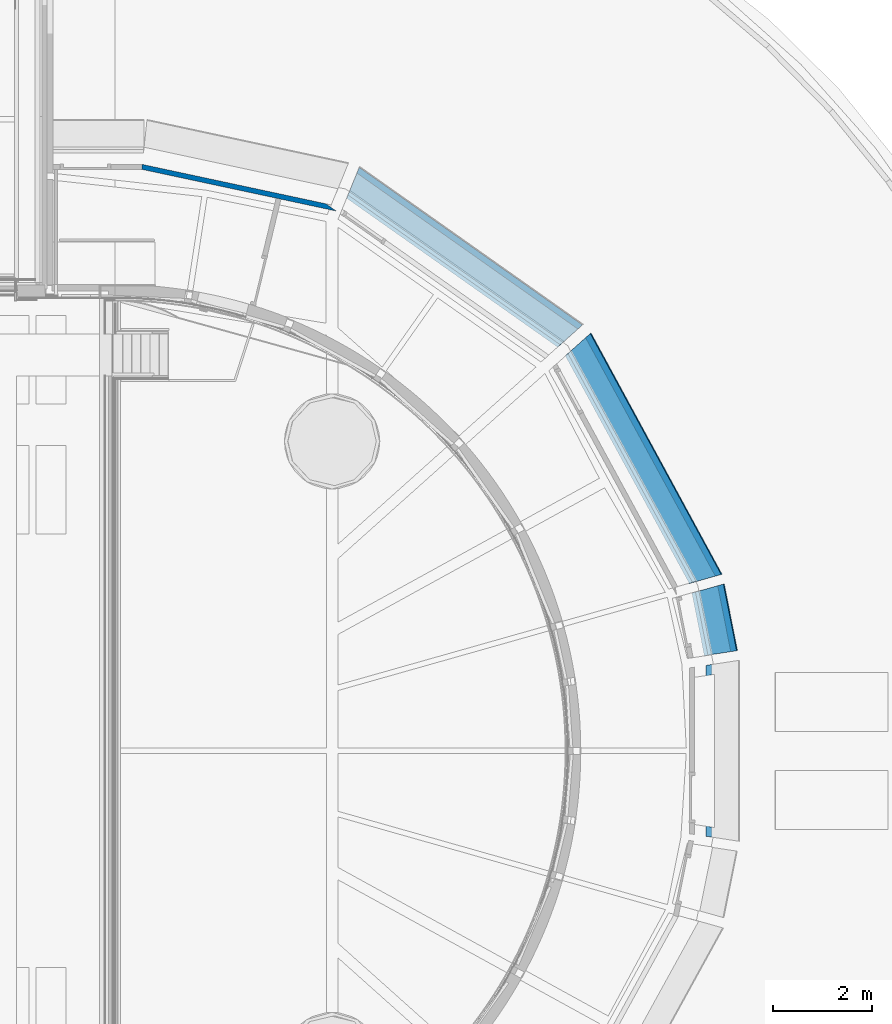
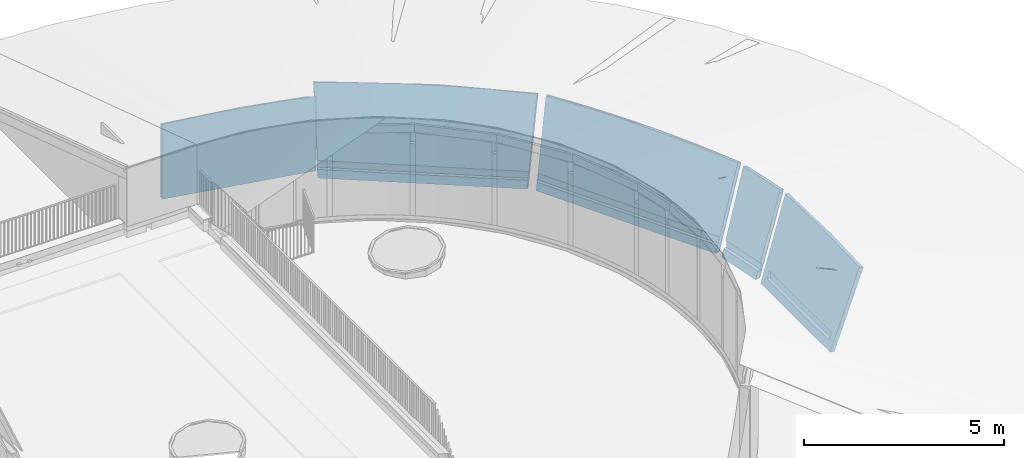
# One storey, part 51 of 66: 7 walls.
"""IFC2X3 building model written with IfcOpenShell, lengths in millimetres."""

from ifc_helpers import new_model, entity, si_unit, converted_unit, derived_unit, direction, frame, origin, place, context, subcontext, project, spatial, faceted_brep, material, layer, layer_set, type_object, element, save


model = new_model("IFC2X3")

# Units and contexts
model_context = context("Model", 3, precision=0.01, world=origin(), true_north=direction((6.12303176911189e-17, 1.0)))
body_context = subcontext(model_context, "Body", "Model", "MODEL_VIEW")
ifc_project = project(units=[si_unit("LENGTHUNIT", "METRE", prefix="MILLI"), si_unit("AREAUNIT", "SQUARE_METRE"), si_unit("VOLUMEUNIT", "CUBIC_METRE"), converted_unit("PLANEANGLEUNIT", "DEGREE", entity("IfcRatioMeasure", 0.0174532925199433), si_unit("PLANEANGLEUNIT", "RADIAN"), dimensions=[0, 0, 0, 0, 0, 0, 0]), si_unit("MASSUNIT", "GRAM", prefix="KILO"), derived_unit("MASSDENSITYUNIT", [(si_unit("MASSUNIT", "GRAM", prefix="KILO"), 1), (si_unit("LENGTHUNIT", "METRE"), -3)]), derived_unit("MOMENTOFINERTIAUNIT", [(si_unit("LENGTHUNIT", "METRE"), 4)]), si_unit("TIMEUNIT", "SECOND"), si_unit("FREQUENCYUNIT", "HERTZ"), si_unit("THERMODYNAMICTEMPERATUREUNIT", "DEGREE_CELSIUS"), derived_unit("THERMALTRANSMITTANCEUNIT", [(si_unit("MASSUNIT", "GRAM", prefix="KILO"), 1), (si_unit("THERMODYNAMICTEMPERATUREUNIT", "KELVIN"), -1), (si_unit("TIMEUNIT", "SECOND"), -3)]), derived_unit("VOLUMETRICFLOWRATEUNIT", [(si_unit("LENGTHUNIT", "METRE"), 3), (si_unit("TIMEUNIT", "SECOND"), -1)]), si_unit("ELECTRICCURRENTUNIT", "AMPERE"), si_unit("ELECTRICVOLTAGEUNIT", "VOLT"), si_unit("POWERUNIT", "WATT"), si_unit("FORCEUNIT", "NEWTON", prefix="KILO"), si_unit("ILLUMINANCEUNIT", "LUX"), si_unit("LUMINOUSFLUXUNIT", "LUMEN"), si_unit("LUMINOUSINTENSITYUNIT", "CANDELA"), derived_unit("USERDEFINED", [(si_unit("MASSUNIT", "GRAM", prefix="KILO"), -1), (si_unit("LENGTHUNIT", "METRE"), -2), (si_unit("TIMEUNIT", "SECOND"), 3), (si_unit("LUMINOUSFLUXUNIT", "LUMEN"), 1)]), derived_unit("LINEARVELOCITYUNIT", [(si_unit("LENGTHUNIT", "METRE"), 1), (si_unit("TIMEUNIT", "SECOND"), -1)]), si_unit("PRESSUREUNIT", "PASCAL"), derived_unit("USERDEFINED", [(si_unit("LENGTHUNIT", "METRE"), -2), (si_unit("MASSUNIT", "GRAM", prefix="KILO"), 1), (si_unit("TIMEUNIT", "SECOND"), -2)]), derived_unit("LINEARFORCEUNIT", [(si_unit("MASSUNIT", "GRAM", prefix="KILO"), 1), (si_unit("LENGTHUNIT", "METRE"), 1), (si_unit("TIMEUNIT", "SECOND"), -2), (si_unit("LENGTHUNIT", "METRE"), -1)]), derived_unit("PLANARFORCEUNIT", [(si_unit("MASSUNIT", "GRAM", prefix="KILO"), 1), (si_unit("LENGTHUNIT", "METRE"), 1), (si_unit("TIMEUNIT", "SECOND"), -2), (si_unit("LENGTHUNIT", "METRE"), -2)])], contexts=[model_context])

# Site, building, storey
site_placement = place(None, origin())
site = spatial("IfcSite", under=ifc_project, at=site_placement, Name="Default", CompositionType="ELEMENT")
building_placement = place(site_placement, origin())
building = spatial("IfcBuilding", under=site, at=building_placement, Name="-", CompositionType="ELEMENT")
storey_placement = place(building_placement, frame((0.0, 0.0, 3070.0)))
storey = spatial("IfcBuildingStorey", under=building, at=storey_placement, Name="01 eerste verdieping", CompositionType="ELEMENT", Elevation=3070.00000000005)

# Walls
ifc_material_1 = material(Name="NLRS_f7_gipsplaat_gen")
ifc_layer_1 = layer(ifc_material_1, 12.5)
ifc_material_2 = material(Name="NLRS_m1_isolatie")
ifc_layer_2 = layer(ifc_material_2, 75.0)
ifc_layer_3 = layer(ifc_material_1, 12.5)
ifc_layer_set_1 = layer_set([ifc_layer_1, ifc_layer_2, ifc_layer_3], Name="Basic Wall:NLRS_21_WA_Metalstud 100mm")
wall_type_1 = type_object("IfcWallType", Name="Basic Wall:NLRS_21_WA_Metalstud 100mm", PredefinedType="STANDARD", material=ifc_layer_set_1)
wall_1_placement = place(storey_placement, frame((51189.4343126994, 31474.7863707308, 100.0), z_axis=(0.0, 0.0, 1.0), x_axis=(0.977793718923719, -0.209569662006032, 0.0)))
element("IfcWall", 1, at=wall_1_placement, inside=storey, type_object=wall_type_1, Name="Basic Wall:NLRS_21_WA_Metalstud 100mm", ObjectType="Basic Wall:NLRS_21_WA_Metalstud 100mm", context=body_context, shape_type="Brep", body=[
    faceted_brep([(10.5961334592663, -50.0, 0.0), (2801.93908799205, -50.0, 0.0), (2901.97079579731, -50.0, 0.0), (4048.40724407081, -50.0, 0.0), (4048.40724407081, -50.0, 2274.16548387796), (3393.47804476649, -50.0, 2306.03180569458), (2901.97079579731, -50.0, 2322.28861399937), (2851.95566966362, -50.0, 2323.57048406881), (2801.93908799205, -50.0, 2324.78329121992), (2533.26423384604, -50.0, 2330.11296708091), (2398.91116444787, -50.0, 2332.0268947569), (1509.91452337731, -50.0, 2332.0268947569), (676.704294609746, -50.0, 2312.09890806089), (10.5961334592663, -50.0, 2282.49090924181), (3814.09285141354, 50.0, 0.0), (0.0, 50.0, 0.0), (0.0, 50.0, 2249.87463159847), (452.943667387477, 50.0, 2260.9981391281), (1059.48617005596, 50.0, 2275.89376651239), (2118.97234011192, 50.0, 2301.91290142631), (2966.53259576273, 50.0, 2278.3574841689), (3814.09285141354, 50.0, 2254.80206691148), (1806.21485837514, -42.4711787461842, 2332.0268947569), (5.29807086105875, -3.89899694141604e-05, 2266.18290499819), (3931.24081642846, 0.00393971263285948, 2264.69284493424)], [[[0, 1, 2, 3, 4, 5, 6, 7, 8, 9, 10, 11, 12, 13]], [[14, 15, 16, 17, 18, 19, 20, 21]], [[3, 2, 1, 0, 15, 14]], [[10, 22, 11]], [[18, 11, 19]], [[19, 11, 22]], [[19, 22, 10]], [[5, 21, 20]], [[12, 17, 13]], [[11, 18, 12]], [[12, 18, 17]], [[16, 23, 17]], [[10, 9, 19]], [[7, 20, 8]], [[6, 20, 7]], [[5, 20, 6]], [[20, 19, 8]], [[21, 5, 24]], [[17, 23, 13]], [[4, 24, 5]], [[8, 19, 9]], [[3, 14, 21, 24, 4]], [[16, 15, 0, 13, 23]]]),
])
ifc_layer_4 = layer(ifc_material_1, 12.5)
ifc_layer_5 = layer(ifc_material_2, 89.0)
ifc_layer_6 = layer(ifc_material_1, 12.5)
ifc_layer_set_2 = layer_set([ifc_layer_4, ifc_layer_5, ifc_layer_6], Name="Basic Wall:NLRS_21_WA_HSB-wand_114mm")
wall_type_2 = type_object("IfcWallType", Name="Basic Wall:NLRS_21_WA_HSB-wand_114mm", PredefinedType="STANDARD", material=ifc_layer_set_2)
wall_2_placement = place(storey_placement, frame((62821.8042367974, 17749.5545274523, -370.0), z_axis=(0.0, 0.0, 1.0), x_axis=(0.0, 1.0, 0.0)))
element("IfcWall", 2, at=wall_2_placement, inside=storey, type_object=wall_type_2, Name="Basic Wall:NLRS_21_WA_HSB-wand_114mm", ObjectType="Basic Wall:NLRS_21_WA_HSB-wand_114mm", context=body_context, shape_type="Brep", body=[
    faceted_brep([(116.975363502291, 60.2869408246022, 0.0), (3620.67106727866, 60.2869408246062, 0.0), (3737.62502525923, -707.584336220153, 2363.26478803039), (3259.00112998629, -710.52350346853, 2372.31061468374), (2780.37723471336, -713.462670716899, 2381.35644133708), (1661.10144972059, -720.335998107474, 2402.51036789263), (938.763859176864, -714.818415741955, 2385.52899548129), (469.381929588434, -711.233037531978, 2374.49433598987), (0.0, -707.647659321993, 2363.45967649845), (16.496976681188, -599.346228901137, 2399.05389647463), (315.590337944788, 33.2899316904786, 452.0), (135.23401475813, 180.153634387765, 0.0), (531.046644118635, -602.487153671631, 2408.72066893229), (1045.59631155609, -605.628078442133, 2418.38744138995), (1560.14597899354, -608.769003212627, 2428.05421384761), (2074.69564643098, -611.90992798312, 2437.72098630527), (3417.41878763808, 33.2899316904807, 452.0), (2897.91267708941, -605.596418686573, 2418.29000268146), (3721.12970774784, -599.282909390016, 2398.85901905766), (3602.41425176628, 180.153634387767, 0.0), (3406.48187322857, 105.097184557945, 231.0), (326.528352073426, 105.097184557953, 231.0), (3421.71280600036, 5.09718455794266, 231.0), (3421.71280600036, 5.09718455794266, 452.0), (311.295887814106, 5.0971845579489, 452.0), (311.295887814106, 5.0971845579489, 231.0), (3729.37736646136, -653.433622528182, 2381.06190544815), (8.24848838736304, -653.496943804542, 2381.25678859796)], [[[0, 1, 2, 3, 4, 5, 6, 7, 8]], [[9, 10, 11]], [[10, 9, 12]], [[10, 12, 13]], [[10, 13, 14]], [[10, 14, 15]], [[16, 10, 15]], [[16, 15, 17]], [[16, 17, 18]], [[19, 16, 18]], [[20, 16, 19]], [[20, 19, 11]], [[11, 21, 20]], [[21, 11, 10]], [[0, 11, 19, 1]], [[16, 20, 22, 23]], [[24, 23, 22, 25]], [[10, 24, 25, 21]], [[10, 16, 23, 24]], [[22, 20, 21, 25]], [[15, 4, 17]], [[5, 15, 14, 13]], [[3, 2, 26]], [[3, 17, 4]], [[15, 5, 4]], [[6, 12, 7]], [[27, 7, 9]], [[12, 9, 7]], [[5, 13, 6]], [[27, 8, 7]], [[13, 12, 6]], [[18, 3, 26]], [[18, 17, 3]], [[0, 8, 27, 9, 11]], [[18, 26, 2, 1, 19]]]),
])
wall_3_placement = place(storey_placement, frame((62796.3590377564, 21545.9942070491, -370.0), z_axis=(0.0, 0.0, 1.0), x_axis=(-0.194356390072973, 0.980930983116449, 0.0)))
element("IfcWall", 3, at=wall_3_placement, inside=storey, type_object=wall_type_2, Name="Basic Wall:NLRS_21_WA_HSB-wand_114mm", ObjectType="Basic Wall:NLRS_21_WA_HSB-wand_114mm", context=body_context, shape_type="Brep", body=[
    faceted_brep([(32.9935239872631, 33.2899316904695, 452.0), (4.82241704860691, -600.01199706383, 2401.10292018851), (779.24467243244, -600.449000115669, 2402.44787728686), (1398.71880270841, -597.604602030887, 2393.69372012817), (1347.89838837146, 33.2899316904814, 452.0), (39.5264475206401, 180.153634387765, 0.0), (36.1877189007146, 105.097184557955, 231.0), (1342.11410249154, 105.097184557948, 231.0), (1336.06808421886, 180.153634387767, 0.0), (0.0, -708.422576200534, 2365.84462541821), (34.1944292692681, 60.2869408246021, 0.0), (1345.72369970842, 60.2869408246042, 0.0), (1407.449717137, -705.991876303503, 2358.36370036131), (625.561845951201, -709.136661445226, 2368.04235381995), (2.41120854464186, -654.217286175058, 2383.4737756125), (31.7394288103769, 5.09718455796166, 452.0), (31.7394288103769, 5.09718455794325, 231.0), (1350.16939725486, 5.09718455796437, 452.0), (1350.16939725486, 5.09718455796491, 231.0), (1403.08425988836, -651.798238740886, 2376.02871292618)], [[[0, 1, 2, 3, 4]], [[5, 6, 7, 8]], [[9, 10, 11, 12, 13]], [[10, 5, 8, 11]], [[14, 1, 0, 15, 16, 6, 5, 10, 9]], [[15, 17, 18, 16]], [[4, 17, 15, 0]], [[6, 16, 18, 7]], [[3, 2, 19]], [[13, 12, 19]], [[19, 2, 13]], [[14, 13, 2]], [[9, 13, 14]], [[14, 2, 1]], [[7, 18, 17, 4, 3, 19, 12, 11, 8]]]),
])
wall_4_placement = place(storey_placement, frame((62555.1733948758, 22923.0351062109, -352.0), z_axis=(0.0, 0.0, 1.0), x_axis=(-0.478208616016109, 0.878246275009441, 0.0)))
element("IfcWall", 4, at=wall_4_placement, inside=storey, type_object=wall_type_2, Name="Basic Wall:NLRS_21_WA_HSB-wand_114mm", ObjectType="Basic Wall:NLRS_21_WA_HSB-wand_114mm", context=body_context, shape_type="Brep", body=[
    faceted_brep([(171.827773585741, 54.4383862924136, 0.0), (5490.69195735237, 54.4383862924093, 0.0), (5668.90031107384, -702.737338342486, 2330.34726245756), (5189.40446183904, -707.363023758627, 2344.58365831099), (4881.51823371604, -710.333195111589, 2353.72490578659), (4094.13615635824, -717.9290518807, 2377.10254911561), (3306.75407900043, -725.524908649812, 2400.48019244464), (2913.06304032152, -729.322837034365, 2412.16901410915), (2519.37200164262, -733.120765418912, 2423.85783577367), (1889.52900123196, -725.981944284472, 2401.88680349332), (1259.68600082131, -718.843123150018, 2379.91577121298), (473.839317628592, -709.936111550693, 2352.50280824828), (0.0, -704.565480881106, 2335.97370665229), (173.191892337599, 33.289931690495, 434.0), (24.4857522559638, -596.406128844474, 2372.00519893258), (562.817749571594, -605.330599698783, 2399.47189595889), (198.963902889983, 174.305079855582, 0.0), (189.448041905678, 105.097184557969, 213.0), (1101.14974688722, -614.255070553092, 2426.9385929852), (1963.32126102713, -622.398015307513, 2452.0), (3617.60164021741, -622.39801530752, 2452.0), (5492.07380998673, 33.289931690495, 434.0), (5462.48021543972, 174.305079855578, 0.0), (5475.17330472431, 105.097184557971, 213.0), (4180.60711390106, -616.530113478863, 2433.94045514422), (5643.44885641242, -594.598616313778, 2366.44224737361), (4743.61258758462, -610.66221165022, 2415.88091028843), (5193.53072199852, -602.630413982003, 2391.16157883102), (2459.6617121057, -635.351326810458, 2452.0), (2956.00216318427, -648.304638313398, 2452.0), (5656.17458365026, -648.667976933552, 2348.39475819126), (5498.70923541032, 5.09718455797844, 213.0), (5498.70923541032, 5.09718455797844, 434.0), (166.809451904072, 5.09718455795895, 213.0), (166.809451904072, 5.09718455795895, 434.0), (12.2428761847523, -650.485804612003, 2353.98945482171)], [[[0, 1, 2, 3, 4, 5, 6, 7, 8, 9, 10, 11, 12]], [[13, 14, 15]], [[13, 16, 14]], [[13, 17, 16]], [[13, 15, 18]], [[13, 18, 19]], [[19, 20, 13]], [[21, 13, 20]], [[16, 17, 22]], [[22, 17, 23]], [[22, 23, 21]], [[21, 20, 24]], [[22, 21, 25]], [[21, 24, 26]], [[21, 26, 27]], [[21, 27, 25]], [[0, 16, 22, 1]], [[20, 19, 28, 29]], [[25, 30, 2, 1, 22]], [[21, 23, 31, 32]], [[32, 31, 33, 34]], [[13, 34, 33, 17]], [[34, 13, 21, 32]], [[31, 23, 17, 33]], [[2, 30, 3]], [[25, 3, 30]], [[20, 5, 26, 24]], [[20, 29, 6]], [[4, 3, 27]], [[3, 25, 27]], [[26, 4, 27]], [[6, 5, 20]], [[10, 15, 11]], [[18, 10, 9]], [[19, 8, 29, 28]], [[26, 5, 4]], [[19, 9, 8]], [[15, 10, 18]], [[35, 12, 11]], [[18, 9, 19]], [[14, 35, 11]], [[29, 8, 7, 6]], [[15, 14, 11]], [[0, 12, 35, 14, 16]]]),
])
wall_5_placement = place(storey_placement, frame((59901.0654211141, 27840.1347978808, -355.0), z_axis=(0.0, 0.0, 1.0), x_axis=(-0.817056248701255, 0.576557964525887, 0.0)))
element("IfcWall", 5, at=wall_5_placement, inside=storey, type_object=wall_type_2, Name="Basic Wall:NLRS_21_WA_HSB-wand_114mm", ObjectType="Basic Wall:NLRS_21_WA_HSB-wand_114mm", context=body_context, shape_type="Brep", body=[
    faceted_brep([(174.690939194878, 55.4131453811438, 0.0), (5474.2908816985, 55.4131453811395, 0.0), (5649.52891361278, -702.338513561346, 2332.11980599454), (5168.38023762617, -706.822404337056, 2345.91980281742), (4864.81624264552, -709.651359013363, 2354.6264300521), (4080.10357167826, -716.964204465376, 2377.13305410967), (3295.39090071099, -724.277049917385, 2399.63967816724), (2510.67822974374, -731.589895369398, 2422.1463022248), (1883.0086723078, -724.328476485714, 2399.79795286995), (1255.33911487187, -717.06705760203, 2377.4496035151), (473.991306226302, -708.027757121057, 2349.62949723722), (0.0, -702.544219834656, 2332.75290480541), (172.157610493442, 33.2899316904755, 437.0), (188.70745487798, 105.097184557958, 216.0), (5462.80092566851, 105.097184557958, 216.0), (5446.57044951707, 175.27983894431, 0.0), (202.317328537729, 175.279838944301, 0.0), (24.9260037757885, -594.394087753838, 2368.8127731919), (648.919409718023, -604.46815661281, 2399.81756907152), (1272.91281566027, -614.542225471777, 2430.82236495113), (1772.62978963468, -618.470120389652, 2442.91118247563), (2272.34676360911, -622.398015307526, 2455.0), (3367.23988860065, -622.398015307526, 2455.0), (3994.56908681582, -616.872029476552, 2437.99276438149), (4621.89828503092, -611.346043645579, 2420.98552876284), (5123.20838243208, -602.768121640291, 2394.58539942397), (5624.51847983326, -594.190199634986, 2368.1852700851), (5479.40710728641, 33.2899316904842, 437.0), (2637.33631772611, -627.648762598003, 2455.0), (3002.32587184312, -632.899509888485, 2455.0), (5485.79671071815, 5.66046936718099, 216.0), (5485.79671071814, 5.66046936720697, 437.0), (5637.02369663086, -648.264356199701, 2350.1525413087), (12.4630019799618, -648.469153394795, 2350.78284226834), (165.659860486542, 5.09718455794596, 437.0), (165.659860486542, 5.09718455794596, 216.0)], [[[0, 1, 2, 3, 4, 5, 6, 7, 8, 9, 10, 11]], [[12, 13, 14, 15, 16, 17, 18, 19, 20, 21, 22, 23, 24, 25, 26, 27]], [[0, 16, 15, 1]], [[22, 21, 28, 29]], [[14, 30, 31, 27, 26, 32, 2, 1, 15]], [[0, 11, 33, 17, 16]], [[34, 31, 30, 35]], [[12, 34, 35, 13]], [[27, 31, 34, 12]], [[13, 35, 30, 14]], [[2, 32, 3]], [[5, 24, 23]], [[6, 23, 22]], [[5, 23, 6]], [[4, 3, 25]], [[3, 26, 25]], [[8, 21, 20, 19]], [[24, 4, 25]], [[29, 7, 6]], [[9, 18, 10]], [[19, 9, 8]], [[21, 7, 29, 28]], [[24, 5, 4]], [[21, 8, 7]], [[18, 9, 19]], [[33, 11, 10]], [[17, 33, 10]], [[29, 6, 22]], [[18, 17, 10]], [[26, 3, 32]]]),
])
ifc_material_3 = material(Name="NLRS_Akoestisch paneel RAL 9010")
ifc_layer_7 = layer(ifc_material_3, 18.0)
ifc_layer_set_3 = layer_set([ifc_layer_7], Name="Basic Wall:NLRS_42_WA_Akoestische panelen")
wall_type_3 = type_object("IfcWallType", Name="Basic Wall:NLRS_42_WA_Akoestische panelen", PredefinedType="STANDARD", material=ifc_layer_set_3)
wall_6_placement = place(storey_placement, frame((62864.5802110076, 21558.7349471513, -370.0), z_axis=(0.0, 0.0, 1.0), x_axis=(-0.194356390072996, 0.980930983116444, 0.0)))
element("IfcWall", 6, at=wall_6_placement, inside=storey, type_object=wall_type_3, Name="Basic Wall:NLRS_42_WA_Akoestische panelen", ObjectType="Basic Wall:NLRS_42_WA_Akoestische panelen", context=body_context, shape_type="Brep", body=[
    faceted_brep([(0.0, -656.143528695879, 2360.27752449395), (34.1139658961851, 110.757127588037, 0.0), (1348.00970482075, 110.757127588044, 0.0), (1409.58971677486, -653.709149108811, 2352.78527451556), (1225.782562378, -654.44851269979, 2355.0608016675), (1041.97540798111, -655.187876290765, 2357.33632881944), (626.512957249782, -656.859072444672, 2362.47974170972), (34.9558635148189, 129.683447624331, 0.0), (0.761434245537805, -639.026069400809, 2365.84462541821), (391.737443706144, -639.247890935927, 2366.52732190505), (782.713453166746, -639.469712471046, 2367.21001839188), (1095.46230227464, -638.032540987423, 2362.7868593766), (1408.21115138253, -636.595369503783, 2358.36370036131), (1346.48513395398, 129.68344762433, 0.0), (1408.90043408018, -645.152259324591, 2355.57448749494), (0.380717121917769, -647.58479906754, 2363.06107501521)], [[[0, 1, 2, 3, 4, 5, 6]], [[7, 8, 9, 10, 11, 12, 13]], [[1, 7, 13, 2]], [[6, 11, 10]], [[4, 3, 14]], [[11, 6, 5]], [[15, 6, 9]], [[5, 12, 11]], [[5, 4, 12]], [[0, 6, 15]], [[12, 4, 14]], [[15, 9, 8]], [[6, 10, 9]], [[1, 0, 15, 8, 7]], [[12, 14, 3, 2, 13]]]),
])
wall_7_placement = place(storey_placement, frame((62616.0121420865, 22953.0918788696, -355.0), z_axis=(0.0, 0.0, 1.0), x_axis=(-0.477071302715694, 0.878864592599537, 0.0)))
element("IfcWall", 7, at=wall_7_placement, inside=storey, type_object=wall_type_3, Name="Basic Wall:NLRS_42_WA_Akoestische panelen", ObjectType="Basic Wall:NLRS_42_WA_Akoestische panelen", context=body_context, shape_type="Brep", body=[
    faceted_brep([(170.633543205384, 105.883332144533, 0.0), (5498.78168972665, 105.88333214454, 0.0), (5677.68386717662, -649.852025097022, 2325.91426744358), (5651.33686506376, -650.352135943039, 2327.45345036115), (5624.9898629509, -650.852246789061, 2328.99263327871), (5572.29585872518, -651.852468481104, 2332.07099911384), (5466.90785027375, -653.852911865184, 2338.22773078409), (5414.21384604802, -654.853133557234, 2341.30609661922), (5361.51984182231, -655.853355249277, 2344.38446245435), (5308.82583759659, -656.853576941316, 2347.46282828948), (5256.13183337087, -657.853798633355, 2350.5411941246), (5151.83416933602, -659.833545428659, 2356.63422824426), (5099.6853373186, -660.823418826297, 2359.68074530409), (5047.53650530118, -661.813292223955, 2362.72726236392), (4968.70670045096, -662.952552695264, 2366.23354556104), (4889.87689560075, -664.09181316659, 2369.73982875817), (4811.04709075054, -665.23107363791, 2373.2461119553), (4732.21728590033, -666.370334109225, 2376.75239515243), (4653.38748105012, -667.509594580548, 2380.25867834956), (4574.55767619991, -668.64885505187, 2383.76496154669), (4495.7278713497, -669.788115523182, 2387.27124474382), (4416.89806649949, -670.927375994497, 2390.77752794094), (4259.14482012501, -672.479295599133, 2395.55384535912), (4101.39157375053, -674.031215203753, 2400.3301627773), (3943.63832737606, -675.583134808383, 2405.10648019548), (3785.88508100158, -677.135054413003, 2409.88279761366), (3470.26408524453, -678.764923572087, 2414.89901909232), (3154.64308948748, -680.394792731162, 2419.91524057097), (2523.31384605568, -680.684533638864, 2420.80697139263), (2207.67854187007, -679.343417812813, 2416.67944129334), (1892.04323768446, -678.002301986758, 2412.55191119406), (1734.27685739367, -676.593306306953, 2408.21546838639), (1576.51047710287, -675.184310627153, 2403.87902557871), (1418.74409681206, -673.775314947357, 2399.54258277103), (1260.97771652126, -672.366319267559, 2395.20613996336), (1182.13722105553, -671.2973191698, 2391.91609596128), (1103.29672558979, -670.22831907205, 2388.6260519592), (1024.45623012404, -669.159318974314, 2385.33600795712), (945.615734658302, -668.090318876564, 2382.04596395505), (866.775239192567, -667.021318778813, 2378.75591995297), (787.934743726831, -665.952318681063, 2375.46587595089), (709.094248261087, -664.883318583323, 2372.17583194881), (630.253752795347, -663.814318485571, 2368.88578794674), (579.35343926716, -662.892663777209, 2366.04922642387), (528.453125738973, -661.971009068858, 2363.21266490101), (426.652498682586, -660.127699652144, 2357.53954185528), (319.989374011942, -658.196344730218, 2351.59544260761), (266.657811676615, -657.230667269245, 2348.62339298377), (213.326249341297, -656.264989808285, 2345.65134335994), (106.663124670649, -654.333634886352, 2339.70724411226), (53.3315623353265, -653.367957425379, 2336.73519448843), (26.6657811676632, -652.885118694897, 2335.24916967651), (0.0, -652.402279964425, 2333.76314486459), (174.892446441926, 124.809652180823, 0.0), (3.84304708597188, -635.324000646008, 2339.45082935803), (82.5153541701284, -636.748462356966, 2343.83487171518), (161.187661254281, -638.172924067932, 2348.21891407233), (239.859968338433, -639.597385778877, 2352.60295642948), (318.532275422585, -641.021847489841, 2356.98699878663), (397.204582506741, -642.446309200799, 2361.37104114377), (475.876889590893, -643.870770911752, 2365.75508350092), (554.549196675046, -645.29523262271, 2370.13912585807), (633.221503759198, -646.719694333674, 2374.52316821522), (711.952523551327, -647.787165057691, 2377.80850528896), (790.683543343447, -648.854635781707, 2381.09384236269), (869.414563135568, -649.922106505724, 2384.37917943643), (948.145582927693, -650.98957722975, 2387.66451651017), (1026.87660271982, -652.057047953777, 2390.94985358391), (1105.60762251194, -653.124518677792, 2394.23519065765), (1184.33864230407, -654.19198940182, 2397.52052773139), (1263.06966209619, -655.259460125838, 2400.80586480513), (1420.61697047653, -656.666444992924, 2405.13611896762), (1578.16427885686, -658.073429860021, 2409.46637313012), (1735.71158723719, -659.480414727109, 2413.79662729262), (1893.25889561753, -660.887399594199, 2418.12688145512), (2208.45571966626, -662.226617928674, 2422.24857167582), (2523.65254371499, -663.565836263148, 2426.37026189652), (3154.10506268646, -663.276579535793, 2425.4800212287), (3469.28760334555, -661.649090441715, 2420.47112483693), (3784.47014400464, -660.021601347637, 2415.46222844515), (3942.00413387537, -658.471933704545, 2410.69284185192), (4099.53812374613, -656.922266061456, 2405.92345525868), (4257.07211361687, -655.372598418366, 2401.15406866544), (4414.60610348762, -653.822930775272, 2396.38468207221), (4493.32665273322, -652.68531396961, 2392.88345755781), (4572.04720197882, -651.547697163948, 2389.38223304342), (4650.76775122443, -650.410080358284, 2385.88100852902), (4729.48830047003, -649.272463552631, 2382.37978401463), (4808.20884971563, -648.134846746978, 2378.87855950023), (4886.92939896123, -646.997229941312, 2375.37733498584), (4965.64994820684, -645.859613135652, 2371.87611047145), (5044.37049745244, -644.721996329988, 2368.37488595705), (5123.02943558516, -643.228996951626, 2363.77990634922), (5201.68837371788, -641.735997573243, 2359.18492674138), (5280.34731185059, -640.242998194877, 2354.58994713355), (5359.00624998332, -638.749998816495, 2349.99496752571), (5437.66518811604, -637.256999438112, 2345.39998791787), (5516.32412624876, -635.764000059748, 2340.80500831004), (5594.98306438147, -634.271000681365, 2336.2100287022), (5673.64200251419, -632.77800130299, 2331.61504909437), (5494.30133845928, 124.809652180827, 0.0), (1.92152353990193, -643.863140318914, 2336.60698715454), (5675.66293485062, -641.315013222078, 2328.76465833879)], [[[0, 1, 2, 3, 4, 5, 6, 7, 8, 9, 10, 11, 12, 13, 14, 15, 16, 17, 18, 19, 20, 21, 22, 23, 24, 25, 26, 27, 28, 29, 30, 31, 32, 33, 34, 35, 36, 37, 38, 39, 40, 41, 42, 43, 44, 45, 46, 47, 48, 49, 50, 51, 52]], [[53, 54, 55, 56, 57, 58, 59, 60, 61, 62, 63, 64, 65, 66, 67, 68, 69, 70, 71, 72, 73, 74, 75, 76, 77, 78, 79, 80, 81, 82, 83, 84, 85, 86, 87, 88, 89, 90, 91, 92, 93, 94, 95, 96, 97, 98, 99, 100]], [[0, 53, 100, 1]], [[82, 22, 83]], [[24, 81, 80]], [[27, 26, 78]], [[54, 50, 55]], [[27, 77, 28]], [[79, 26, 25]], [[49, 55, 50]], [[74, 30, 29]], [[5, 98, 97]], [[91, 14, 13]], [[83, 22, 21]], [[91, 13, 92]], [[14, 90, 15]], [[10, 93, 11]], [[86, 19, 18]], [[25, 80, 79]], [[70, 34, 33]], [[96, 95, 8]], [[64, 40, 39]], [[40, 64, 63]], [[75, 74, 29]], [[76, 28, 77]], [[33, 71, 70]], [[73, 31, 30]], [[32, 72, 71]], [[28, 76, 75]], [[35, 34, 69]], [[32, 31, 72]], [[67, 36, 68]], [[62, 41, 63]], [[54, 101, 50]], [[21, 84, 83]], [[60, 44, 61]], [[23, 82, 81]], [[17, 88, 87]], [[56, 49, 48]], [[26, 79, 78]], [[27, 78, 77]], [[28, 75, 29]], [[46, 45, 58]], [[45, 60, 59, 58]], [[3, 2, 102, 4]], [[82, 23, 22]], [[16, 89, 88]], [[6, 97, 96]], [[10, 94, 93]], [[87, 18, 17]], [[81, 24, 23]], [[68, 36, 35]], [[30, 74, 73]], [[32, 71, 33]], [[65, 39, 38]], [[61, 44, 43, 42]], [[57, 46, 58]], [[101, 52, 51, 50]], [[62, 42, 41]], [[9, 94, 10]], [[95, 9, 8]], [[89, 16, 15]], [[88, 17, 16]], [[15, 90, 89]], [[4, 99, 98]], [[11, 92, 13, 12]], [[85, 20, 19]], [[34, 70, 69]], [[42, 62, 61]], [[38, 66, 65]], [[40, 63, 41]], [[94, 9, 95]], [[99, 4, 102]], [[60, 45, 44]], [[37, 67, 66]], [[14, 91, 90]], [[5, 97, 6]], [[92, 11, 93]], [[20, 85, 84]], [[80, 25, 24]], [[64, 39, 65]], [[48, 57, 56]], [[72, 31, 73]], [[68, 35, 69]], [[66, 38, 37]], [[84, 21, 20]], [[4, 98, 5]], [[6, 96, 8, 7]], [[19, 86, 85]], [[46, 57, 48, 47]], [[49, 56, 55]], [[18, 87, 86]], [[36, 67, 37]], [[99, 102, 2, 1, 100]], [[0, 52, 101, 54, 53]]]),
])

save(model, "model.ifc")
